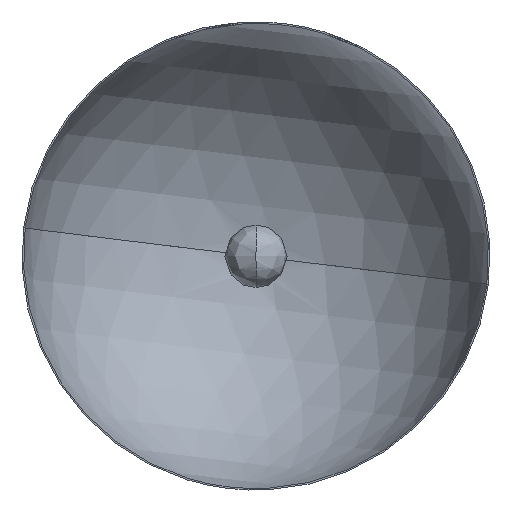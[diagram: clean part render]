
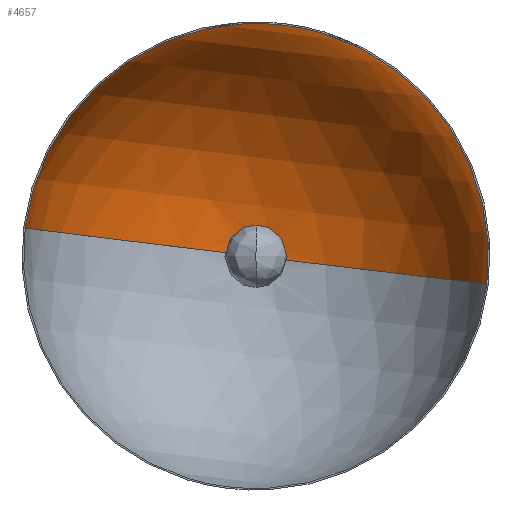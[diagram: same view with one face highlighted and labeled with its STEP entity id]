
A CAD part, top view. The second image highlights one B-rep face of the part: STEP entity #4657.
In plain terms, the highlighted spherical face has radius 223.5 mm.
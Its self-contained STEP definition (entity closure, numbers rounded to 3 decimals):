
#201 = EDGE_CURVE ( 'NONE', #3929, #6416, #6283, .T. ) ;
#265 = ORIENTED_EDGE ( 'NONE', *, *, #9378, .T. ) ;
#494 = CARTESIAN_POINT ( 'NONE',  ( 28.419, 211.873, 0. ) ) ;
#1058 = CARTESIAN_POINT ( 'NONE',  ( 0., -9.813, 0. ) ) ;
#1336 = CIRCLE ( 'NONE', #4743, 223.284 ) ;
#1370 = DIRECTION ( 'NONE',  ( 0., 1., 0. ) ) ;
#1797 = DIRECTION ( 'NONE',  ( 1., 0., 0. ) ) ;
#1919 = CARTESIAN_POINT ( 'NONE',  ( 0., -9.813, 0. ) ) ;
#1966 = EDGE_LOOP ( 'NONE', ( #8813, #8257, #2172, #265 ) ) ;
#2172 = ORIENTED_EDGE ( 'NONE', *, *, #201, .T. ) ;
#2306 = FACE_OUTER_BOUND ( 'NONE', #1966, .T. ) ;
#2820 = AXIS2_PLACEMENT_3D ( 'NONE', #1058, #6155, #1797 ) ;
#2824 = CIRCLE ( 'NONE', #4502, 28.419 ) ;
#2958 = CARTESIAN_POINT ( 'NONE',  ( 0., -9.813, 0. ) ) ;
#3005 = EDGE_CURVE ( 'NONE', #6411, #4841, #8634, .T. ) ;
#3092 = CARTESIAN_POINT ( 'NONE',  ( 0., 0., 0. ) ) ;
#3240 = CARTESIAN_POINT ( 'NONE',  ( -28.419, 211.873, 0. ) ) ;
#3697 = DIRECTION ( 'NONE',  ( -1., 0., 0. ) ) ;
#3702 = CARTESIAN_POINT ( 'NONE',  ( 223.284, 0., 0. ) ) ;
#3836 = DIRECTION ( 'NONE',  ( 1., 0., 0. ) ) ;
#3929 = VERTEX_POINT ( 'NONE', #494 ) ;
#4093 = DIRECTION ( 'NONE',  ( 1., 0., 0. ) ) ;
#4502 = AXIS2_PLACEMENT_3D ( 'NONE', #5727, #1370, #6462 ) ;
#4657 = ADVANCED_FACE ( 'NONE', ( #2306 ), #6169, .F. ) ;
#4743 = AXIS2_PLACEMENT_3D ( 'NONE', #3092, #8179, #3836 ) ;
#4841 = VERTEX_POINT ( 'NONE', #9354 ) ;
#5546 = DIRECTION ( 'NONE',  ( 0., 0., 1. ) ) ;
#5727 = CARTESIAN_POINT ( 'NONE',  ( 0., 211.873, 0. ) ) ;
#6155 = DIRECTION ( 'NONE',  ( 0., 0., 1. ) ) ;
#6169 = SPHERICAL_SURFACE ( 'NONE', #8042, 223.5 ) ;
#6283 = CIRCLE ( 'NONE', #7022, 223.5 ) ;
#6411 = VERTEX_POINT ( 'NONE', #3240 ) ;
#6416 = VERTEX_POINT ( 'NONE', #3702 ) ;
#6462 = DIRECTION ( 'NONE',  ( 1., 0., 0. ) ) ;
#7022 = AXIS2_PLACEMENT_3D ( 'NONE', #2958, #8044, #3697 ) ;
#7220 = EDGE_CURVE ( 'NONE', #6411, #3929, #2824, .T. ) ;
#8042 = AXIS2_PLACEMENT_3D ( 'NONE', #1919, #5546, #4093 ) ;
#8044 = DIRECTION ( 'NONE',  ( 0., 0., -1. ) ) ;
#8179 = DIRECTION ( 'NONE',  ( 0., -1., 0. ) ) ;
#8257 = ORIENTED_EDGE ( 'NONE', *, *, #7220, .T. ) ;
#8634 = CIRCLE ( 'NONE', #2820, 223.5 ) ;
#8813 = ORIENTED_EDGE ( 'NONE', *, *, #3005, .F. ) ;
#9354 = CARTESIAN_POINT ( 'NONE',  ( -223.284, 0., 0. ) ) ;
#9378 = EDGE_CURVE ( 'NONE', #6416, #4841, #1336, .T. ) ;
